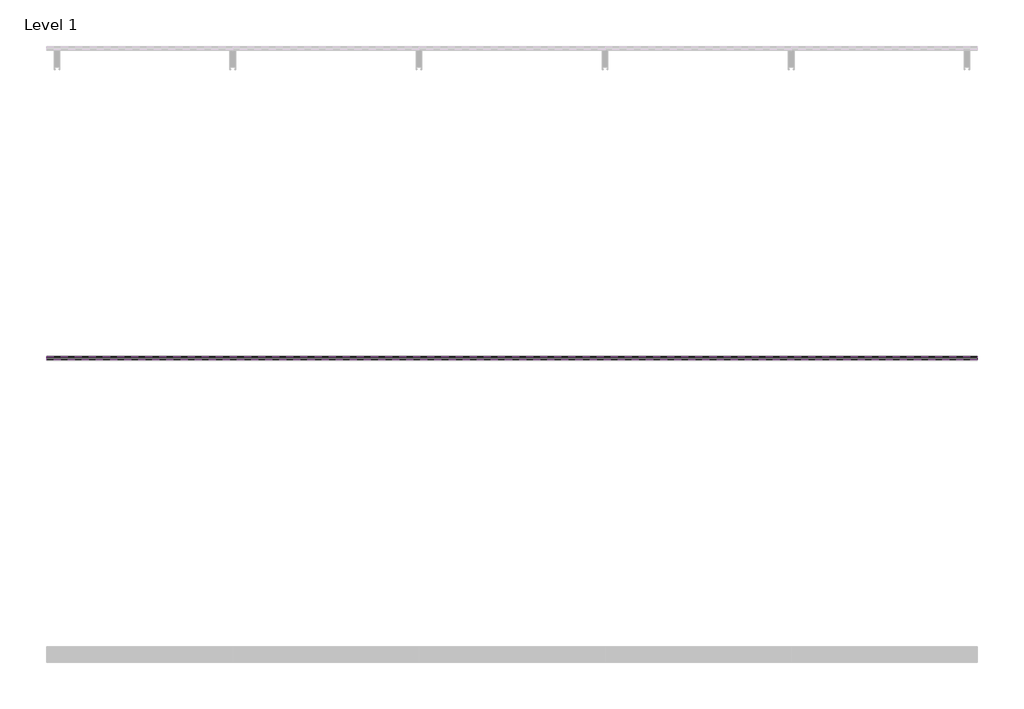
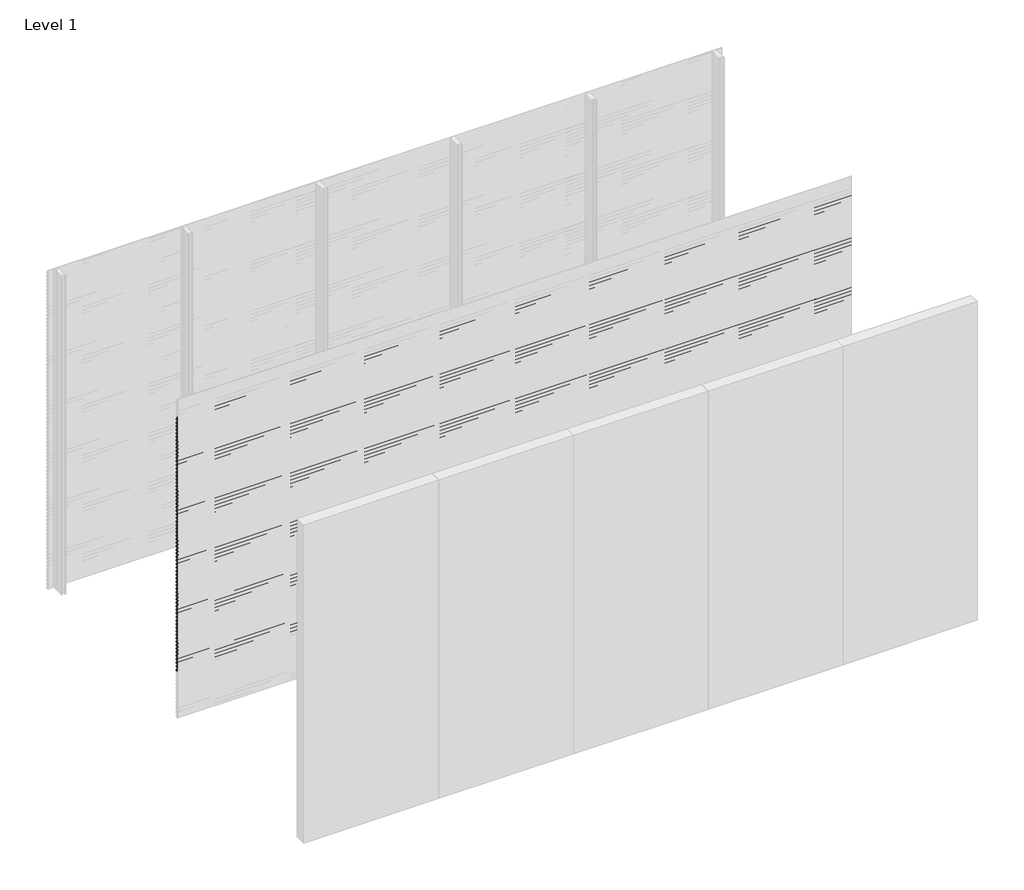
# One storey, part 11 of 77: 72 proxies.
"""IFC4 building model written with IfcOpenShell, lengths in millimetres."""

from ifc_helpers import new_model, si_unit, frame, origin, place, context, project, spatial, polyline, outline, extrude, element, save

model = new_model("IFC4")

# Units and contexts
model_context = context("Model", 3, world=origin())
ifc_project = project(units=[si_unit("LENGTHUNIT", "METRE", prefix="MILLI")], contexts=[model_context])

# Site, building, storey
site = spatial("IfcSite", under=ifc_project)
building = spatial("IfcBuilding", under=site)
storey = spatial("IfcBuildingStorey", under=building, Name="Level 1", Elevation=0.0)

# Proxies
placement = place(None, origin())
element("IfcBuildingElementProxy", 1, Name="Wall Sweeps", at=placement, inside=storey, context=model_context, shape_type="SweptSolid", body=[
    extrude(outline(polyline([(-49978.6, 2806.0359887), (-49998.0, 2817.2366691), (-49998.0, 2830.5), (-49997.0, 2830.5), (-49997.0, 2817.8191057), (-49977.6, 2806.6185105), (-49977.6, 2793.0185105), (-49978.6, 2794.5953129), (-49978.6, 2800.4032062), (-49995.9773817, 2792.3), (-49996.4, 2793.2063078), (-49978.6, 2801.5065841), (-49978.6, 2806.0359887)])), frame((0.0, 0.0, 0.0), z_axis=(1.0, 0.0, 0.0), x_axis=(0.0, 1.0, 0.0)), (0.0, 0.0, 1.0), 6000.0),
])
element("IfcBuildingElementProxy", 2, Name="Wall Sweeps", at=placement, inside=storey, context=model_context, shape_type="SweptSolid", body=[
    extrude(outline(polyline([(-49978.6, 2772.7359887), (-49998.0, 2783.9366691), (-49998.0, 2797.2), (-49997.0, 2797.2), (-49997.0, 2784.5191057), (-49977.6, 2773.3185105), (-49977.6, 2759.7185105), (-49978.6, 2761.2953129), (-49978.6, 2767.1032062), (-49995.9773817, 2759.0), (-49996.4, 2759.9063078), (-49978.6, 2768.2065841), (-49978.6, 2772.7359887)])), frame((0.0, 0.0, 0.0), z_axis=(1.0, 0.0, 0.0), x_axis=(0.0, 1.0, 0.0)), (0.0, 0.0, 1.0), 6000.0),
])
element("IfcBuildingElementProxy", 3, Name="Wall Sweeps", at=placement, inside=storey, context=model_context, shape_type="SweptSolid", body=[
    extrude(outline(polyline([(-49978.6, 2739.4359887), (-49998.0, 2750.6366691), (-49998.0, 2763.9), (-49997.0, 2763.9), (-49997.0, 2751.2191057), (-49977.6, 2740.0185105), (-49977.6, 2726.4185105), (-49978.6, 2727.9953129), (-49978.6, 2733.8032062), (-49995.9773817, 2725.7), (-49996.4, 2726.6063078), (-49978.6, 2734.9065841), (-49978.6, 2739.4359887)])), frame((0.0, 0.0, 0.0), z_axis=(1.0, 0.0, 0.0), x_axis=(0.0, 1.0, 0.0)), (0.0, 0.0, 1.0), 6000.0),
])
element("IfcBuildingElementProxy", 4, Name="Wall Sweeps", at=placement, inside=storey, context=model_context, shape_type="SweptSolid", body=[
    extrude(outline(polyline([(-49978.6, 2706.1359887), (-49998.0, 2717.3366691), (-49998.0, 2730.6), (-49997.0, 2730.6), (-49997.0, 2717.9191057), (-49977.6, 2706.7185105), (-49977.6, 2693.1185105), (-49978.6, 2694.6953129), (-49978.6, 2700.5032062), (-49995.9773817, 2692.4), (-49996.4, 2693.3063078), (-49978.6, 2701.6065841), (-49978.6, 2706.1359887)])), frame((0.0, 0.0, 0.0), z_axis=(1.0, 0.0, 0.0), x_axis=(0.0, 1.0, 0.0)), (0.0, 0.0, 1.0), 6000.0),
])
element("IfcBuildingElementProxy", 5, Name="Wall Sweeps", at=placement, inside=storey, context=model_context, shape_type="SweptSolid", body=[
    extrude(outline(polyline([(-49978.6, 2672.8359887), (-49998.0, 2684.0366691), (-49998.0, 2697.3), (-49997.0, 2697.3), (-49997.0, 2684.6191057), (-49977.6, 2673.4185105), (-49977.6, 2659.8185105), (-49978.6, 2661.3953129), (-49978.6, 2667.2032062), (-49995.9773817, 2659.1), (-49996.4, 2660.0063078), (-49978.6, 2668.3065841), (-49978.6, 2672.8359887)])), frame((0.0, 0.0, 0.0), z_axis=(1.0, 0.0, 0.0), x_axis=(0.0, 1.0, 0.0)), (0.0, 0.0, 1.0), 6000.0),
])
element("IfcBuildingElementProxy", 6, Name="Wall Sweeps", at=placement, inside=storey, context=model_context, shape_type="SweptSolid", body=[
    extrude(outline(polyline([(-49978.6, 2639.5359887), (-49998.0, 2650.7366691), (-49998.0, 2664.0), (-49997.0, 2664.0), (-49997.0, 2651.3191057), (-49977.6, 2640.1185105), (-49977.6, 2626.5185105), (-49978.6, 2628.0953129), (-49978.6, 2633.9032062), (-49995.9773817, 2625.8), (-49996.4, 2626.7063078), (-49978.6, 2635.0065841), (-49978.6, 2639.5359887)])), frame((0.0, 0.0, 0.0), z_axis=(1.0, 0.0, 0.0), x_axis=(0.0, 1.0, 0.0)), (0.0, 0.0, 1.0), 6000.0),
])
element("IfcBuildingElementProxy", 7, Name="Wall Sweeps", at=placement, inside=storey, context=model_context, shape_type="SweptSolid", body=[
    extrude(outline(polyline([(-49978.6, 2606.2359887), (-49998.0, 2617.4366691), (-49998.0, 2630.7), (-49997.0, 2630.7), (-49997.0, 2618.0191057), (-49977.6, 2606.8185105), (-49977.6, 2593.2185105), (-49978.6, 2594.7953129), (-49978.6, 2600.6032062), (-49995.9773817, 2592.5), (-49996.4, 2593.4063078), (-49978.6, 2601.7065841), (-49978.6, 2606.2359887)])), frame((0.0, 0.0, 0.0), z_axis=(1.0, 0.0, 0.0), x_axis=(0.0, 1.0, 0.0)), (0.0, 0.0, 1.0), 6000.0),
])
element("IfcBuildingElementProxy", 8, Name="Wall Sweeps", at=placement, inside=storey, context=model_context, shape_type="SweptSolid", body=[
    extrude(outline(polyline([(-49978.6, 2572.9359887), (-49998.0, 2584.1366691), (-49998.0, 2597.4), (-49997.0, 2597.4), (-49997.0, 2584.7191057), (-49977.6, 2573.5185105), (-49977.6, 2559.9185105), (-49978.6, 2561.4953129), (-49978.6, 2567.3032062), (-49995.9773817, 2559.2), (-49996.4, 2560.1063078), (-49978.6, 2568.4065841), (-49978.6, 2572.9359887)])), frame((0.0, 0.0, 0.0), z_axis=(1.0, 0.0, 0.0), x_axis=(0.0, 1.0, 0.0)), (0.0, 0.0, 1.0), 6000.0),
])
element("IfcBuildingElementProxy", 9, Name="Wall Sweeps", at=placement, inside=storey, context=model_context, shape_type="SweptSolid", body=[
    extrude(outline(polyline([(-49978.6, 2539.6359887), (-49998.0, 2550.8366691), (-49998.0, 2564.1), (-49997.0, 2564.1), (-49997.0, 2551.4191057), (-49977.6, 2540.2185105), (-49977.6, 2526.6185105), (-49978.6, 2528.1953129), (-49978.6, 2534.0032062), (-49995.9773817, 2525.9), (-49996.4, 2526.8063078), (-49978.6, 2535.1065841), (-49978.6, 2539.6359887)])), frame((0.0, 0.0, 0.0), z_axis=(1.0, 0.0, 0.0), x_axis=(0.0, 1.0, 0.0)), (0.0, 0.0, 1.0), 6000.0),
])
element("IfcBuildingElementProxy", 10, Name="Wall Sweeps", at=placement, inside=storey, context=model_context, shape_type="SweptSolid", body=[
    extrude(outline(polyline([(-49978.6, 2506.3359887), (-49998.0, 2517.5366691), (-49998.0, 2530.8), (-49997.0, 2530.8), (-49997.0, 2518.1191057), (-49977.6, 2506.9185105), (-49977.6, 2493.3185105), (-49978.6, 2494.8953129), (-49978.6, 2500.7032062), (-49995.9773817, 2492.6), (-49996.4, 2493.5063078), (-49978.6, 2501.8065841), (-49978.6, 2506.3359887)])), frame((0.0, 0.0, 0.0), z_axis=(1.0, 0.0, 0.0), x_axis=(0.0, 1.0, 0.0)), (0.0, 0.0, 1.0), 6000.0),
])
element("IfcBuildingElementProxy", 11, Name="Wall Sweeps", at=placement, inside=storey, context=model_context, shape_type="SweptSolid", body=[
    extrude(outline(polyline([(-49978.6, 2473.0359887), (-49998.0, 2484.2366691), (-49998.0, 2497.5), (-49997.0, 2497.5), (-49997.0, 2484.8191057), (-49977.6, 2473.6185105), (-49977.6, 2460.0185105), (-49978.6, 2461.5953129), (-49978.6, 2467.4032062), (-49995.9773817, 2459.3), (-49996.4, 2460.2063078), (-49978.6, 2468.5065841), (-49978.6, 2473.0359887)])), frame((0.0, 0.0, 0.0), z_axis=(1.0, 0.0, 0.0), x_axis=(0.0, 1.0, 0.0)), (0.0, 0.0, 1.0), 6000.0),
])
element("IfcBuildingElementProxy", 12, Name="Wall Sweeps", at=placement, inside=storey, context=model_context, shape_type="SweptSolid", body=[
    extrude(outline(polyline([(-49978.6, 2439.7359887), (-49998.0, 2450.9366691), (-49998.0, 2464.2), (-49997.0, 2464.2), (-49997.0, 2451.5191057), (-49977.6, 2440.3185105), (-49977.6, 2426.7185105), (-49978.6, 2428.2953129), (-49978.6, 2434.1032062), (-49995.9773817, 2426.0), (-49996.4, 2426.9063078), (-49978.6, 2435.2065841), (-49978.6, 2439.7359887)])), frame((0.0, 0.0, 0.0), z_axis=(1.0, 0.0, 0.0), x_axis=(0.0, 1.0, 0.0)), (0.0, 0.0, 1.0), 6000.0),
])
element("IfcBuildingElementProxy", 13, Name="Wall Sweeps", at=placement, inside=storey, context=model_context, shape_type="SweptSolid", body=[
    extrude(outline(polyline([(-49978.6, 2406.4359887), (-49998.0, 2417.6366691), (-49998.0, 2430.9), (-49997.0, 2430.9), (-49997.0, 2418.2191057), (-49977.6, 2407.0185105), (-49977.6, 2393.4185105), (-49978.6, 2394.9953129), (-49978.6, 2400.8032062), (-49995.9773817, 2392.7), (-49996.4, 2393.6063078), (-49978.6, 2401.9065841), (-49978.6, 2406.4359887)])), frame((0.0, 0.0, 0.0), z_axis=(1.0, 0.0, 0.0), x_axis=(0.0, 1.0, 0.0)), (0.0, 0.0, 1.0), 6000.0),
])
element("IfcBuildingElementProxy", 14, Name="Wall Sweeps", at=placement, inside=storey, context=model_context, shape_type="SweptSolid", body=[
    extrude(outline(polyline([(-49978.6, 2373.1359887), (-49998.0, 2384.3366691), (-49998.0, 2397.6), (-49997.0, 2397.6), (-49997.0, 2384.9191057), (-49977.6, 2373.7185105), (-49977.6, 2360.1185105), (-49978.6, 2361.6953129), (-49978.6, 2367.5032062), (-49995.9773817, 2359.4), (-49996.4, 2360.3063078), (-49978.6, 2368.6065841), (-49978.6, 2373.1359887)])), frame((0.0, 0.0, 0.0), z_axis=(1.0, 0.0, 0.0), x_axis=(0.0, 1.0, 0.0)), (0.0, 0.0, 1.0), 6000.0),
])
element("IfcBuildingElementProxy", 15, Name="Wall Sweeps", at=placement, inside=storey, context=model_context, shape_type="SweptSolid", body=[
    extrude(outline(polyline([(-49978.6, 2339.8359887), (-49998.0, 2351.0366691), (-49998.0, 2364.3), (-49997.0, 2364.3), (-49997.0, 2351.6191057), (-49977.6, 2340.4185105), (-49977.6, 2326.8185105), (-49978.6, 2328.3953129), (-49978.6, 2334.2032062), (-49995.9773817, 2326.1), (-49996.4, 2327.0063078), (-49978.6, 2335.3065841), (-49978.6, 2339.8359887)])), frame((0.0, 0.0, 0.0), z_axis=(1.0, 0.0, 0.0), x_axis=(0.0, 1.0, 0.0)), (0.0, 0.0, 1.0), 6000.0),
])
element("IfcBuildingElementProxy", 16, Name="Wall Sweeps", at=placement, inside=storey, context=model_context, shape_type="SweptSolid", body=[
    extrude(outline(polyline([(-49978.6, 2306.5359887), (-49998.0, 2317.7366691), (-49998.0, 2331.0), (-49997.0, 2331.0), (-49997.0, 2318.3191057), (-49977.6, 2307.1185105), (-49977.6, 2293.5185105), (-49978.6, 2295.0953129), (-49978.6, 2300.9032062), (-49995.9773817, 2292.8), (-49996.4, 2293.7063078), (-49978.6, 2302.0065841), (-49978.6, 2306.5359887)])), frame((0.0, 0.0, 0.0), z_axis=(1.0, 0.0, 0.0), x_axis=(0.0, 1.0, 0.0)), (0.0, 0.0, 1.0), 6000.0),
])
element("IfcBuildingElementProxy", 17, Name="Wall Sweeps", at=placement, inside=storey, context=model_context, shape_type="SweptSolid", body=[
    extrude(outline(polyline([(-49978.6, 2273.2359887), (-49998.0, 2284.4366691), (-49998.0, 2297.7), (-49997.0, 2297.7), (-49997.0, 2285.0191057), (-49977.6, 2273.8185105), (-49977.6, 2260.2185105), (-49978.6, 2261.7953129), (-49978.6, 2267.6032062), (-49995.9773817, 2259.5), (-49996.4, 2260.4063078), (-49978.6, 2268.7065841), (-49978.6, 2273.2359887)])), frame((0.0, 0.0, 0.0), z_axis=(1.0, 0.0, 0.0), x_axis=(0.0, 1.0, 0.0)), (0.0, 0.0, 1.0), 6000.0),
])
element("IfcBuildingElementProxy", 18, Name="Wall Sweeps", at=placement, inside=storey, context=model_context, shape_type="SweptSolid", body=[
    extrude(outline(polyline([(-49978.6, 2239.9359887), (-49998.0, 2251.1366691), (-49998.0, 2264.4), (-49997.0, 2264.4), (-49997.0, 2251.7191057), (-49977.6, 2240.5185105), (-49977.6, 2226.9185105), (-49978.6, 2228.4953129), (-49978.6, 2234.3032062), (-49995.9773817, 2226.2), (-49996.4, 2227.1063078), (-49978.6, 2235.4065841), (-49978.6, 2239.9359887)])), frame((0.0, 0.0, 0.0), z_axis=(1.0, 0.0, 0.0), x_axis=(0.0, 1.0, 0.0)), (0.0, 0.0, 1.0), 6000.0),
])
element("IfcBuildingElementProxy", 19, Name="Wall Sweeps", at=placement, inside=storey, context=model_context, shape_type="SweptSolid", body=[
    extrude(outline(polyline([(-49978.6, 2206.6359887), (-49998.0, 2217.8366691), (-49998.0, 2231.1), (-49997.0, 2231.1), (-49997.0, 2218.4191057), (-49977.6, 2207.2185105), (-49977.6, 2193.6185105), (-49978.6, 2195.1953129), (-49978.6, 2201.0032062), (-49995.9773817, 2192.9), (-49996.4, 2193.8063078), (-49978.6, 2202.1065841), (-49978.6, 2206.6359887)])), frame((0.0, 0.0, 0.0), z_axis=(1.0, 0.0, 0.0), x_axis=(0.0, 1.0, 0.0)), (0.0, 0.0, 1.0), 6000.0),
])
element("IfcBuildingElementProxy", 20, Name="Wall Sweeps", at=placement, inside=storey, context=model_context, shape_type="SweptSolid", body=[
    extrude(outline(polyline([(-49978.6, 2173.3359887), (-49998.0, 2184.5366691), (-49998.0, 2197.8), (-49997.0, 2197.8), (-49997.0, 2185.1191057), (-49977.6, 2173.9185105), (-49977.6, 2160.3185105), (-49978.6, 2161.8953129), (-49978.6, 2167.7032062), (-49995.9773817, 2159.6), (-49996.4, 2160.5063078), (-49978.6, 2168.8065841), (-49978.6, 2173.3359887)])), frame((0.0, 0.0, 0.0), z_axis=(1.0, 0.0, 0.0), x_axis=(0.0, 1.0, 0.0)), (0.0, 0.0, 1.0), 6000.0),
])
element("IfcBuildingElementProxy", 21, Name="Wall Sweeps", at=placement, inside=storey, context=model_context, shape_type="SweptSolid", body=[
    extrude(outline(polyline([(-49978.6, 2140.0359887), (-49998.0, 2151.2366691), (-49998.0, 2164.5), (-49997.0, 2164.5), (-49997.0, 2151.8191057), (-49977.6, 2140.6185105), (-49977.6, 2127.0185105), (-49978.6, 2128.5953129), (-49978.6, 2134.4032062), (-49995.9773817, 2126.3), (-49996.4, 2127.2063078), (-49978.6, 2135.5065841), (-49978.6, 2140.0359887)])), frame((0.0, 0.0, 0.0), z_axis=(1.0, 0.0, 0.0), x_axis=(0.0, 1.0, 0.0)), (0.0, 0.0, 1.0), 6000.0),
])
element("IfcBuildingElementProxy", 22, Name="Wall Sweeps", at=placement, inside=storey, context=model_context, shape_type="SweptSolid", body=[
    extrude(outline(polyline([(-49978.6, 2106.7359887), (-49998.0, 2117.9366691), (-49998.0, 2131.2), (-49997.0, 2131.2), (-49997.0, 2118.5191057), (-49977.6, 2107.3185105), (-49977.6, 2093.7185105), (-49978.6, 2095.2953129), (-49978.6, 2101.1032062), (-49995.9773817, 2093.0), (-49996.4, 2093.9063078), (-49978.6, 2102.2065841), (-49978.6, 2106.7359887)])), frame((0.0, 0.0, 0.0), z_axis=(1.0, 0.0, 0.0), x_axis=(0.0, 1.0, 0.0)), (0.0, 0.0, 1.0), 6000.0),
])
element("IfcBuildingElementProxy", 23, Name="Wall Sweeps", at=placement, inside=storey, context=model_context, shape_type="SweptSolid", body=[
    extrude(outline(polyline([(-49978.6, 2073.4359887), (-49998.0, 2084.6366691), (-49998.0, 2097.9), (-49997.0, 2097.9), (-49997.0, 2085.2191057), (-49977.6, 2074.0185105), (-49977.6, 2060.4185105), (-49978.6, 2061.9953129), (-49978.6, 2067.8032062), (-49995.9773817, 2059.7), (-49996.4, 2060.6063078), (-49978.6, 2068.9065841), (-49978.6, 2073.4359887)])), frame((0.0, 0.0, 0.0), z_axis=(1.0, 0.0, 0.0), x_axis=(0.0, 1.0, 0.0)), (0.0, 0.0, 1.0), 6000.0),
])
element("IfcBuildingElementProxy", 24, Name="Wall Sweeps", at=placement, inside=storey, context=model_context, shape_type="SweptSolid", body=[
    extrude(outline(polyline([(-49978.6, 2040.1359887), (-49998.0, 2051.3366691), (-49998.0, 2064.6), (-49997.0, 2064.6), (-49997.0, 2051.9191057), (-49977.6, 2040.7185105), (-49977.6, 2027.1185105), (-49978.6, 2028.6953129), (-49978.6, 2034.5032062), (-49995.9773817, 2026.4), (-49996.4, 2027.3063078), (-49978.6, 2035.6065841), (-49978.6, 2040.1359887)])), frame((0.0, 0.0, 0.0), z_axis=(1.0, 0.0, 0.0), x_axis=(0.0, 1.0, 0.0)), (0.0, 0.0, 1.0), 6000.0),
])
element("IfcBuildingElementProxy", 25, Name="Wall Sweeps", at=placement, inside=storey, context=model_context, shape_type="SweptSolid", body=[
    extrude(outline(polyline([(-49978.6, 2006.8359887), (-49998.0, 2018.0366691), (-49998.0, 2031.3), (-49997.0, 2031.3), (-49997.0, 2018.6191057), (-49977.6, 2007.4185105), (-49977.6, 1993.8185105), (-49978.6, 1995.3953129), (-49978.6, 2001.2032062), (-49995.9773817, 1993.1), (-49996.4, 1994.0063078), (-49978.6, 2002.3065841), (-49978.6, 2006.8359887)])), frame((0.0, 0.0, 0.0), z_axis=(1.0, 0.0, 0.0), x_axis=(0.0, 1.0, 0.0)), (0.0, 0.0, 1.0), 6000.0),
])
element("IfcBuildingElementProxy", 26, Name="Wall Sweeps", at=placement, inside=storey, context=model_context, shape_type="SweptSolid", body=[
    extrude(outline(polyline([(-49978.6, 1973.5359887), (-49998.0, 1984.7366691), (-49998.0, 1998.0), (-49997.0, 1998.0), (-49997.0, 1985.3191057), (-49977.6, 1974.1185105), (-49977.6, 1960.5185105), (-49978.6, 1962.0953129), (-49978.6, 1967.9032062), (-49995.9773817, 1959.8), (-49996.4, 1960.7063078), (-49978.6, 1969.0065841), (-49978.6, 1973.5359887)])), frame((0.0, 0.0, 0.0), z_axis=(1.0, 0.0, 0.0), x_axis=(0.0, 1.0, 0.0)), (0.0, 0.0, 1.0), 6000.0),
])
element("IfcBuildingElementProxy", 27, Name="Wall Sweeps", at=placement, inside=storey, context=model_context, shape_type="SweptSolid", body=[
    extrude(outline(polyline([(-49978.6, 1940.2359887), (-49998.0, 1951.4366691), (-49998.0, 1964.7), (-49997.0, 1964.7), (-49997.0, 1952.0191057), (-49977.6, 1940.8185105), (-49977.6, 1927.2185105), (-49978.6, 1928.7953129), (-49978.6, 1934.6032062), (-49995.9773817, 1926.5), (-49996.4, 1927.4063078), (-49978.6, 1935.7065841), (-49978.6, 1940.2359887)])), frame((0.0, 0.0, 0.0), z_axis=(1.0, 0.0, 0.0), x_axis=(0.0, 1.0, 0.0)), (0.0, 0.0, 1.0), 6000.0),
])
element("IfcBuildingElementProxy", 28, Name="Wall Sweeps", at=placement, inside=storey, context=model_context, shape_type="SweptSolid", body=[
    extrude(outline(polyline([(-49978.6, 1906.9359887), (-49998.0, 1918.1366691), (-49998.0, 1931.4), (-49997.0, 1931.4), (-49997.0, 1918.7191057), (-49977.6, 1907.5185105), (-49977.6, 1893.9185105), (-49978.6, 1895.4953129), (-49978.6, 1901.3032062), (-49995.9773817, 1893.2), (-49996.4, 1894.1063078), (-49978.6, 1902.4065841), (-49978.6, 1906.9359887)])), frame((0.0, 0.0, 0.0), z_axis=(1.0, 0.0, 0.0), x_axis=(0.0, 1.0, 0.0)), (0.0, 0.0, 1.0), 6000.0),
])
element("IfcBuildingElementProxy", 29, Name="Wall Sweeps", at=placement, inside=storey, context=model_context, shape_type="SweptSolid", body=[
    extrude(outline(polyline([(-49978.6, 1873.6359887), (-49998.0, 1884.8366691), (-49998.0, 1898.1), (-49997.0, 1898.1), (-49997.0, 1885.4191057), (-49977.6, 1874.2185105), (-49977.6, 1860.6185105), (-49978.6, 1862.1953129), (-49978.6, 1868.0032062), (-49995.9773817, 1859.9), (-49996.4, 1860.8063078), (-49978.6, 1869.1065841), (-49978.6, 1873.6359887)])), frame((0.0, 0.0, 0.0), z_axis=(1.0, 0.0, 0.0), x_axis=(0.0, 1.0, 0.0)), (0.0, 0.0, 1.0), 6000.0),
])
element("IfcBuildingElementProxy", 30, Name="Wall Sweeps", at=placement, inside=storey, context=model_context, shape_type="SweptSolid", body=[
    extrude(outline(polyline([(-49978.6, 1840.3359887), (-49998.0, 1851.5366691), (-49998.0, 1864.8), (-49997.0, 1864.8), (-49997.0, 1852.1191057), (-49977.6, 1840.9185105), (-49977.6, 1827.3185105), (-49978.6, 1828.8953129), (-49978.6, 1834.7032062), (-49995.9773817, 1826.6), (-49996.4, 1827.5063078), (-49978.6, 1835.8065841), (-49978.6, 1840.3359887)])), frame((0.0, 0.0, 0.0), z_axis=(1.0, 0.0, 0.0), x_axis=(0.0, 1.0, 0.0)), (0.0, 0.0, 1.0), 6000.0),
])
element("IfcBuildingElementProxy", 31, Name="Wall Sweeps", at=placement, inside=storey, context=model_context, shape_type="SweptSolid", body=[
    extrude(outline(polyline([(-49978.6, 1807.0359887), (-49998.0, 1818.2366691), (-49998.0, 1831.5), (-49997.0, 1831.5), (-49997.0, 1818.8191057), (-49977.6, 1807.6185105), (-49977.6, 1794.0185105), (-49978.6, 1795.5953129), (-49978.6, 1801.4032062), (-49995.9773817, 1793.3), (-49996.4, 1794.2063078), (-49978.6, 1802.5065841), (-49978.6, 1807.0359887)])), frame((0.0, 0.0, 0.0), z_axis=(1.0, 0.0, 0.0), x_axis=(0.0, 1.0, 0.0)), (0.0, 0.0, 1.0), 6000.0),
])
element("IfcBuildingElementProxy", 32, Name="Wall Sweeps", at=placement, inside=storey, context=model_context, shape_type="SweptSolid", body=[
    extrude(outline(polyline([(-49978.6, 1773.7359887), (-49998.0, 1784.9366691), (-49998.0, 1798.2), (-49997.0, 1798.2), (-49997.0, 1785.5191057), (-49977.6, 1774.3185105), (-49977.6, 1760.7185105), (-49978.6, 1762.2953129), (-49978.6, 1768.1032062), (-49995.9773817, 1760.0), (-49996.4, 1760.9063078), (-49978.6, 1769.2065841), (-49978.6, 1773.7359887)])), frame((0.0, 0.0, 0.0), z_axis=(1.0, 0.0, 0.0), x_axis=(0.0, 1.0, 0.0)), (0.0, 0.0, 1.0), 6000.0),
])
element("IfcBuildingElementProxy", 33, Name="Wall Sweeps", at=placement, inside=storey, context=model_context, shape_type="SweptSolid", body=[
    extrude(outline(polyline([(-49978.6, 1740.4359887), (-49998.0, 1751.6366691), (-49998.0, 1764.9), (-49997.0, 1764.9), (-49997.0, 1752.2191057), (-49977.6, 1741.0185105), (-49977.6, 1727.4185105), (-49978.6, 1728.9953129), (-49978.6, 1734.8032062), (-49995.9773817, 1726.7), (-49996.4, 1727.6063078), (-49978.6, 1735.9065841), (-49978.6, 1740.4359887)])), frame((0.0, 0.0, 0.0), z_axis=(1.0, 0.0, 0.0), x_axis=(0.0, 1.0, 0.0)), (0.0, 0.0, 1.0), 6000.0),
])
element("IfcBuildingElementProxy", 34, Name="Wall Sweeps", at=placement, inside=storey, context=model_context, shape_type="SweptSolid", body=[
    extrude(outline(polyline([(-49978.6, 1707.1359887), (-49998.0, 1718.3366691), (-49998.0, 1731.6), (-49997.0, 1731.6), (-49997.0, 1718.9191057), (-49977.6, 1707.7185105), (-49977.6, 1694.1185105), (-49978.6, 1695.6953129), (-49978.6, 1701.5032062), (-49995.9773817, 1693.4), (-49996.4, 1694.3063078), (-49978.6, 1702.6065841), (-49978.6, 1707.1359887)])), frame((0.0, 0.0, 0.0), z_axis=(1.0, 0.0, 0.0), x_axis=(0.0, 1.0, 0.0)), (0.0, 0.0, 1.0), 6000.0),
])
element("IfcBuildingElementProxy", 35, Name="Wall Sweeps", at=placement, inside=storey, context=model_context, shape_type="SweptSolid", body=[
    extrude(outline(polyline([(-49978.6, 1673.8359887), (-49998.0, 1685.0366691), (-49998.0, 1698.3), (-49997.0, 1698.3), (-49997.0, 1685.6191057), (-49977.6, 1674.4185105), (-49977.6, 1660.8185105), (-49978.6, 1662.3953129), (-49978.6, 1668.2032062), (-49995.9773817, 1660.1), (-49996.4, 1661.0063078), (-49978.6, 1669.3065841), (-49978.6, 1673.8359887)])), frame((0.0, 0.0, 0.0), z_axis=(1.0, 0.0, 0.0), x_axis=(0.0, 1.0, 0.0)), (0.0, 0.0, 1.0), 6000.0),
])
element("IfcBuildingElementProxy", 36, Name="Wall Sweeps", at=placement, inside=storey, context=model_context, shape_type="SweptSolid", body=[
    extrude(outline(polyline([(-49978.6, 1640.5359887), (-49998.0, 1651.7366691), (-49998.0, 1665.0), (-49997.0, 1665.0), (-49997.0, 1652.3191057), (-49977.6, 1641.1185105), (-49977.6, 1627.5185105), (-49978.6, 1629.0953129), (-49978.6, 1634.9032062), (-49995.9773817, 1626.8), (-49996.4, 1627.7063078), (-49978.6, 1636.0065841), (-49978.6, 1640.5359887)])), frame((0.0, 0.0, 0.0), z_axis=(1.0, 0.0, 0.0), x_axis=(0.0, 1.0, 0.0)), (0.0, 0.0, 1.0), 6000.0),
])
element("IfcBuildingElementProxy", 37, Name="Wall Sweeps", at=placement, inside=storey, context=model_context, shape_type="SweptSolid", body=[
    extrude(outline(polyline([(-49978.6, 1607.2359887), (-49998.0, 1618.4366691), (-49998.0, 1631.7), (-49997.0, 1631.7), (-49997.0, 1619.0191057), (-49977.6, 1607.8185105), (-49977.6, 1594.2185105), (-49978.6, 1595.7953129), (-49978.6, 1601.6032062), (-49995.9773817, 1593.5), (-49996.4, 1594.4063078), (-49978.6, 1602.7065841), (-49978.6, 1607.2359887)])), frame((0.0, 0.0, 0.0), z_axis=(1.0, 0.0, 0.0), x_axis=(0.0, 1.0, 0.0)), (0.0, 0.0, 1.0), 6000.0),
])
element("IfcBuildingElementProxy", 38, Name="Wall Sweeps", at=placement, inside=storey, context=model_context, shape_type="SweptSolid", body=[
    extrude(outline(polyline([(-49978.6, 1573.9359887), (-49998.0, 1585.1366691), (-49998.0, 1598.4), (-49997.0, 1598.4), (-49997.0, 1585.7191057), (-49977.6, 1574.5185105), (-49977.6, 1560.9185105), (-49978.6, 1562.4953129), (-49978.6, 1568.3032062), (-49995.9773817, 1560.2), (-49996.4, 1561.1063078), (-49978.6, 1569.4065841), (-49978.6, 1573.9359887)])), frame((0.0, 0.0, 0.0), z_axis=(1.0, 0.0, 0.0), x_axis=(0.0, 1.0, 0.0)), (0.0, 0.0, 1.0), 6000.0),
])
element("IfcBuildingElementProxy", 39, Name="Wall Sweeps", at=placement, inside=storey, context=model_context, shape_type="SweptSolid", body=[
    extrude(outline(polyline([(-49978.6, 1540.6359887), (-49998.0, 1551.8366691), (-49998.0, 1565.1), (-49997.0, 1565.1), (-49997.0, 1552.4191057), (-49977.6, 1541.2185105), (-49977.6, 1527.6185105), (-49978.6, 1529.1953129), (-49978.6, 1535.0032062), (-49995.9773817, 1526.9), (-49996.4, 1527.8063078), (-49978.6, 1536.1065841), (-49978.6, 1540.6359887)])), frame((0.0, 0.0, 0.0), z_axis=(1.0, 0.0, 0.0), x_axis=(0.0, 1.0, 0.0)), (0.0, 0.0, 1.0), 6000.0),
])
element("IfcBuildingElementProxy", 40, Name="Wall Sweeps", at=placement, inside=storey, context=model_context, shape_type="SweptSolid", body=[
    extrude(outline(polyline([(-49978.6, 1507.3359887), (-49998.0, 1518.5366691), (-49998.0, 1531.8), (-49997.0, 1531.8), (-49997.0, 1519.1191057), (-49977.6, 1507.9185105), (-49977.6, 1494.3185105), (-49978.6, 1495.8953129), (-49978.6, 1501.7032062), (-49995.9773817, 1493.6), (-49996.4, 1494.5063078), (-49978.6, 1502.8065841), (-49978.6, 1507.3359887)])), frame((0.0, 0.0, 0.0), z_axis=(1.0, 0.0, 0.0), x_axis=(0.0, 1.0, 0.0)), (0.0, 0.0, 1.0), 6000.0),
])
element("IfcBuildingElementProxy", 41, Name="Wall Sweeps", at=placement, inside=storey, context=model_context, shape_type="SweptSolid", body=[
    extrude(outline(polyline([(-49978.6, 1474.0359887), (-49998.0, 1485.2366691), (-49998.0, 1498.5), (-49997.0, 1498.5), (-49997.0, 1485.8191057), (-49977.6, 1474.6185105), (-49977.6, 1461.0185105), (-49978.6, 1462.5953129), (-49978.6, 1468.4032062), (-49995.9773817, 1460.3), (-49996.4, 1461.2063078), (-49978.6, 1469.5065841), (-49978.6, 1474.0359887)])), frame((0.0, 0.0, 0.0), z_axis=(1.0, 0.0, 0.0), x_axis=(0.0, 1.0, 0.0)), (0.0, 0.0, 1.0), 6000.0),
])
element("IfcBuildingElementProxy", 42, Name="Wall Sweeps", at=placement, inside=storey, context=model_context, shape_type="SweptSolid", body=[
    extrude(outline(polyline([(-49978.6, 1440.7359887), (-49998.0, 1451.9366691), (-49998.0, 1465.2), (-49997.0, 1465.2), (-49997.0, 1452.5191057), (-49977.6, 1441.3185105), (-49977.6, 1427.7185105), (-49978.6, 1429.2953129), (-49978.6, 1435.1032062), (-49995.9773817, 1427.0), (-49996.4, 1427.9063078), (-49978.6, 1436.2065841), (-49978.6, 1440.7359887)])), frame((0.0, 0.0, 0.0), z_axis=(1.0, 0.0, 0.0), x_axis=(0.0, 1.0, 0.0)), (0.0, 0.0, 1.0), 6000.0),
])
element("IfcBuildingElementProxy", 43, Name="Wall Sweeps", at=placement, inside=storey, context=model_context, shape_type="SweptSolid", body=[
    extrude(outline(polyline([(-49978.6, 1407.4359887), (-49998.0, 1418.6366691), (-49998.0, 1431.9), (-49997.0, 1431.9), (-49997.0, 1419.2191057), (-49977.6, 1408.0185105), (-49977.6, 1394.4185105), (-49978.6, 1395.9953129), (-49978.6, 1401.8032062), (-49995.9773817, 1393.7), (-49996.4, 1394.6063078), (-49978.6, 1402.9065841), (-49978.6, 1407.4359887)])), frame((0.0, 0.0, 0.0), z_axis=(1.0, 0.0, 0.0), x_axis=(0.0, 1.0, 0.0)), (0.0, 0.0, 1.0), 6000.0),
])
element("IfcBuildingElementProxy", 44, Name="Wall Sweeps", at=placement, inside=storey, context=model_context, shape_type="SweptSolid", body=[
    extrude(outline(polyline([(-49978.6, 1374.1359887), (-49998.0, 1385.3366691), (-49998.0, 1398.6), (-49997.0, 1398.6), (-49997.0, 1385.9191057), (-49977.6, 1374.7185105), (-49977.6, 1361.1185105), (-49978.6, 1362.6953129), (-49978.6, 1368.5032062), (-49995.9773817, 1360.4), (-49996.4, 1361.3063078), (-49978.6, 1369.6065841), (-49978.6, 1374.1359887)])), frame((0.0, 0.0, 0.0), z_axis=(1.0, 0.0, 0.0), x_axis=(0.0, 1.0, 0.0)), (0.0, 0.0, 1.0), 6000.0),
])
element("IfcBuildingElementProxy", 45, Name="Wall Sweeps", at=placement, inside=storey, context=model_context, shape_type="SweptSolid", body=[
    extrude(outline(polyline([(-49978.6, 1340.8359887), (-49998.0, 1352.0366691), (-49998.0, 1365.3), (-49997.0, 1365.3), (-49997.0, 1352.6191057), (-49977.6, 1341.4185105), (-49977.6, 1327.8185105), (-49978.6, 1329.3953129), (-49978.6, 1335.2032062), (-49995.9773817, 1327.1), (-49996.4, 1328.0063078), (-49978.6, 1336.3065841), (-49978.6, 1340.8359887)])), frame((0.0, 0.0, 0.0), z_axis=(1.0, 0.0, 0.0), x_axis=(0.0, 1.0, 0.0)), (0.0, 0.0, 1.0), 6000.0),
])
element("IfcBuildingElementProxy", 46, Name="Wall Sweeps", at=placement, inside=storey, context=model_context, shape_type="SweptSolid", body=[
    extrude(outline(polyline([(-49978.6, 1307.5359887), (-49998.0, 1318.7366691), (-49998.0, 1332.0), (-49997.0, 1332.0), (-49997.0, 1319.3191057), (-49977.6, 1308.1185105), (-49977.6, 1294.5185105), (-49978.6, 1296.0953129), (-49978.6, 1301.9032062), (-49995.9773817, 1293.8), (-49996.4, 1294.7063078), (-49978.6, 1303.0065841), (-49978.6, 1307.5359887)])), frame((0.0, 0.0, 0.0), z_axis=(1.0, 0.0, 0.0), x_axis=(0.0, 1.0, 0.0)), (0.0, 0.0, 1.0), 6000.0),
])
element("IfcBuildingElementProxy", 47, Name="Wall Sweeps", at=placement, inside=storey, context=model_context, shape_type="SweptSolid", body=[
    extrude(outline(polyline([(-49978.6, 1274.2359887), (-49998.0, 1285.4366691), (-49998.0, 1298.7), (-49997.0, 1298.7), (-49997.0, 1286.0191057), (-49977.6, 1274.8185105), (-49977.6, 1261.2185105), (-49978.6, 1262.7953129), (-49978.6, 1268.6032062), (-49995.9773817, 1260.5), (-49996.4, 1261.4063078), (-49978.6, 1269.7065841), (-49978.6, 1274.2359887)])), frame((0.0, 0.0, 0.0), z_axis=(1.0, 0.0, 0.0), x_axis=(0.0, 1.0, 0.0)), (0.0, 0.0, 1.0), 6000.0),
])
element("IfcBuildingElementProxy", 48, Name="Wall Sweeps", at=placement, inside=storey, context=model_context, shape_type="SweptSolid", body=[
    extrude(outline(polyline([(-49978.6, 1240.9359887), (-49998.0, 1252.1366691), (-49998.0, 1265.4), (-49997.0, 1265.4), (-49997.0, 1252.7191057), (-49977.6, 1241.5185105), (-49977.6, 1227.9185105), (-49978.6, 1229.4953129), (-49978.6, 1235.3032062), (-49995.9773817, 1227.2), (-49996.4, 1228.1063078), (-49978.6, 1236.4065841), (-49978.6, 1240.9359887)])), frame((0.0, 0.0, 0.0), z_axis=(1.0, 0.0, 0.0), x_axis=(0.0, 1.0, 0.0)), (0.0, 0.0, 1.0), 6000.0),
])
element("IfcBuildingElementProxy", 49, Name="Wall Sweeps", at=placement, inside=storey, context=model_context, shape_type="SweptSolid", body=[
    extrude(outline(polyline([(-49978.6, 1207.6359887), (-49998.0, 1218.8366691), (-49998.0, 1232.1), (-49997.0, 1232.1), (-49997.0, 1219.4191057), (-49977.6, 1208.2185105), (-49977.6, 1194.6185105), (-49978.6, 1196.1953129), (-49978.6, 1202.0032062), (-49995.9773817, 1193.9), (-49996.4, 1194.8063078), (-49978.6, 1203.1065841), (-49978.6, 1207.6359887)])), frame((0.0, 0.0, 0.0), z_axis=(1.0, 0.0, 0.0), x_axis=(0.0, 1.0, 0.0)), (0.0, 0.0, 1.0), 6000.0),
])
element("IfcBuildingElementProxy", 50, Name="Wall Sweeps", at=placement, inside=storey, context=model_context, shape_type="SweptSolid", body=[
    extrude(outline(polyline([(-49978.6, 1174.3359887), (-49998.0, 1185.5366691), (-49998.0, 1198.8), (-49997.0, 1198.8), (-49997.0, 1186.1191057), (-49977.6, 1174.9185105), (-49977.6, 1161.3185105), (-49978.6, 1162.8953129), (-49978.6, 1168.7032062), (-49995.9773817, 1160.6), (-49996.4, 1161.5063078), (-49978.6, 1169.8065841), (-49978.6, 1174.3359887)])), frame((0.0, 0.0, 0.0), z_axis=(1.0, 0.0, 0.0), x_axis=(0.0, 1.0, 0.0)), (0.0, 0.0, 1.0), 6000.0),
])
element("IfcBuildingElementProxy", 51, Name="Wall Sweeps", at=placement, inside=storey, context=model_context, shape_type="SweptSolid", body=[
    extrude(outline(polyline([(-49978.6, 1141.0359887), (-49998.0, 1152.2366691), (-49998.0, 1165.5), (-49997.0, 1165.5), (-49997.0, 1152.8191057), (-49977.6, 1141.6185105), (-49977.6, 1128.0185105), (-49978.6, 1129.5953129), (-49978.6, 1135.4032062), (-49995.9773817, 1127.3), (-49996.4, 1128.2063078), (-49978.6, 1136.5065841), (-49978.6, 1141.0359887)])), frame((0.0, 0.0, 0.0), z_axis=(1.0, 0.0, 0.0), x_axis=(0.0, 1.0, 0.0)), (0.0, 0.0, 1.0), 6000.0),
])
element("IfcBuildingElementProxy", 52, Name="Wall Sweeps", at=placement, inside=storey, context=model_context, shape_type="SweptSolid", body=[
    extrude(outline(polyline([(-49978.6, 1107.7359887), (-49998.0, 1118.9366691), (-49998.0, 1132.2), (-49997.0, 1132.2), (-49997.0, 1119.5191057), (-49977.6, 1108.3185105), (-49977.6, 1094.7185105), (-49978.6, 1096.2953129), (-49978.6, 1102.1032062), (-49995.9773817, 1094.0), (-49996.4, 1094.9063078), (-49978.6, 1103.2065841), (-49978.6, 1107.7359887)])), frame((0.0, 0.0, 0.0), z_axis=(1.0, 0.0, 0.0), x_axis=(0.0, 1.0, 0.0)), (0.0, 0.0, 1.0), 6000.0),
])
element("IfcBuildingElementProxy", 53, Name="Wall Sweeps", at=placement, inside=storey, context=model_context, shape_type="SweptSolid", body=[
    extrude(outline(polyline([(-49978.6, 1074.4359887), (-49998.0, 1085.6366691), (-49998.0, 1098.9), (-49997.0, 1098.9), (-49997.0, 1086.2191057), (-49977.6, 1075.0185105), (-49977.6, 1061.4185105), (-49978.6, 1062.9953129), (-49978.6, 1068.8032062), (-49995.9773817, 1060.7), (-49996.4, 1061.6063078), (-49978.6, 1069.9065841), (-49978.6, 1074.4359887)])), frame((0.0, 0.0, 0.0), z_axis=(1.0, 0.0, 0.0), x_axis=(0.0, 1.0, 0.0)), (0.0, 0.0, 1.0), 6000.0),
])
element("IfcBuildingElementProxy", 54, Name="Wall Sweeps", at=placement, inside=storey, context=model_context, shape_type="SweptSolid", body=[
    extrude(outline(polyline([(-49978.6, 1041.1359887), (-49998.0, 1052.3366691), (-49998.0, 1065.6), (-49997.0, 1065.6), (-49997.0, 1052.9191057), (-49977.6, 1041.7185105), (-49977.6, 1028.1185105), (-49978.6, 1029.6953129), (-49978.6, 1035.5032062), (-49995.9773817, 1027.4), (-49996.4, 1028.3063078), (-49978.6, 1036.6065841), (-49978.6, 1041.1359887)])), frame((0.0, 0.0, 0.0), z_axis=(1.0, 0.0, 0.0), x_axis=(0.0, 1.0, 0.0)), (0.0, 0.0, 1.0), 6000.0),
])
element("IfcBuildingElementProxy", 55, Name="Wall Sweeps", at=placement, inside=storey, context=model_context, shape_type="SweptSolid", body=[
    extrude(outline(polyline([(-49978.6, 1007.8359887), (-49998.0, 1019.0366691), (-49998.0, 1032.3), (-49997.0, 1032.3), (-49997.0, 1019.6191057), (-49977.6, 1008.4185105), (-49977.6, 994.8185105), (-49978.6, 996.3953129), (-49978.6, 1002.2032062), (-49995.9773817, 994.1), (-49996.4, 995.0063078), (-49978.6, 1003.3065841), (-49978.6, 1007.8359887)])), frame((0.0, 0.0, 0.0), z_axis=(1.0, 0.0, 0.0), x_axis=(0.0, 1.0, 0.0)), (0.0, 0.0, 1.0), 6000.0),
])
element("IfcBuildingElementProxy", 56, Name="Wall Sweeps", at=placement, inside=storey, context=model_context, shape_type="SweptSolid", body=[
    extrude(outline(polyline([(-49978.6, 974.5359887), (-49998.0, 985.7366691), (-49998.0, 999.0), (-49997.0, 999.0), (-49997.0, 986.3191057), (-49977.6, 975.1185105), (-49977.6, 961.5185105), (-49978.6, 963.0953129), (-49978.6, 968.9032062), (-49995.9773817, 960.8), (-49996.4, 961.7063078), (-49978.6, 970.0065841), (-49978.6, 974.5359887)])), frame((0.0, 0.0, 0.0), z_axis=(1.0, 0.0, 0.0), x_axis=(0.0, 1.0, 0.0)), (0.0, 0.0, 1.0), 6000.0),
])
element("IfcBuildingElementProxy", 57, Name="Wall Sweeps", at=placement, inside=storey, context=model_context, shape_type="SweptSolid", body=[
    extrude(outline(polyline([(-49978.6, 941.2359887), (-49998.0, 952.4366691), (-49998.0, 965.7), (-49997.0, 965.7), (-49997.0, 953.0191057), (-49977.6, 941.8185105), (-49977.6, 928.2185105), (-49978.6, 929.7953129), (-49978.6, 935.6032062), (-49995.9773817, 927.5), (-49996.4, 928.4063078), (-49978.6, 936.7065841), (-49978.6, 941.2359887)])), frame((0.0, 0.0, 0.0), z_axis=(1.0, 0.0, 0.0), x_axis=(0.0, 1.0, 0.0)), (0.0, 0.0, 1.0), 6000.0),
])
element("IfcBuildingElementProxy", 58, Name="Wall Sweeps", at=placement, inside=storey, context=model_context, shape_type="SweptSolid", body=[
    extrude(outline(polyline([(-49978.6, 907.9359887), (-49998.0, 919.1366691), (-49998.0, 932.4), (-49997.0, 932.4), (-49997.0, 919.7191057), (-49977.6, 908.5185105), (-49977.6, 894.9185105), (-49978.6, 896.4953129), (-49978.6, 902.3032062), (-49995.9773817, 894.2), (-49996.4, 895.1063078), (-49978.6, 903.4065841), (-49978.6, 907.9359887)])), frame((0.0, 0.0, 0.0), z_axis=(1.0, 0.0, 0.0), x_axis=(0.0, 1.0, 0.0)), (0.0, 0.0, 1.0), 6000.0),
])
element("IfcBuildingElementProxy", 59, Name="Wall Sweeps", at=placement, inside=storey, context=model_context, shape_type="SweptSolid", body=[
    extrude(outline(polyline([(-49978.6, 874.6359887), (-49998.0, 885.8366691), (-49998.0, 899.1), (-49997.0, 899.1), (-49997.0, 886.4191057), (-49977.6, 875.2185105), (-49977.6, 861.6185105), (-49978.6, 863.1953129), (-49978.6, 869.0032062), (-49995.9773817, 860.9), (-49996.4, 861.8063078), (-49978.6, 870.1065841), (-49978.6, 874.6359887)])), frame((0.0, 0.0, 0.0), z_axis=(1.0, 0.0, 0.0), x_axis=(0.0, 1.0, 0.0)), (0.0, 0.0, 1.0), 6000.0),
])
element("IfcBuildingElementProxy", 60, Name="Wall Sweeps", at=placement, inside=storey, context=model_context, shape_type="SweptSolid", body=[
    extrude(outline(polyline([(-49978.6, 841.3359887), (-49998.0, 852.5366691), (-49998.0, 865.8), (-49997.0, 865.8), (-49997.0, 853.1191057), (-49977.6, 841.9185105), (-49977.6, 828.3185105), (-49978.6, 829.8953129), (-49978.6, 835.7032062), (-49995.9773817, 827.6), (-49996.4, 828.5063078), (-49978.6, 836.8065841), (-49978.6, 841.3359887)])), frame((0.0, 0.0, 0.0), z_axis=(1.0, 0.0, 0.0), x_axis=(0.0, 1.0, 0.0)), (0.0, 0.0, 1.0), 6000.0),
])
element("IfcBuildingElementProxy", 61, Name="Wall Sweeps", at=placement, inside=storey, context=model_context, shape_type="SweptSolid", body=[
    extrude(outline(polyline([(-49978.6, 808.0359887), (-49998.0, 819.2366691), (-49998.0, 832.5), (-49997.0, 832.5), (-49997.0, 819.8191057), (-49977.6, 808.6185105), (-49977.6, 795.0185105), (-49978.6, 796.5953129), (-49978.6, 802.4032062), (-49995.9773817, 794.3), (-49996.4, 795.2063078), (-49978.6, 803.5065841), (-49978.6, 808.0359887)])), frame((0.0, 0.0, 0.0), z_axis=(1.0, 0.0, 0.0), x_axis=(0.0, 1.0, 0.0)), (0.0, 0.0, 1.0), 6000.0),
])
element("IfcBuildingElementProxy", 62, Name="Wall Sweeps", at=placement, inside=storey, context=model_context, shape_type="SweptSolid", body=[
    extrude(outline(polyline([(-49978.6, 774.7359887), (-49998.0, 785.9366691), (-49998.0, 799.2), (-49997.0, 799.2), (-49997.0, 786.5191057), (-49977.6, 775.3185105), (-49977.6, 761.7185105), (-49978.6, 763.2953129), (-49978.6, 769.1032062), (-49995.9773817, 761.0), (-49996.4, 761.9063078), (-49978.6, 770.2065841), (-49978.6, 774.7359887)])), frame((0.0, 0.0, 0.0), z_axis=(1.0, 0.0, 0.0), x_axis=(0.0, 1.0, 0.0)), (0.0, 0.0, 1.0), 6000.0),
])
element("IfcBuildingElementProxy", 63, Name="Wall Sweeps", at=placement, inside=storey, context=model_context, shape_type="SweptSolid", body=[
    extrude(outline(polyline([(-49978.6, 741.4359887), (-49998.0, 752.6366691), (-49998.0, 765.9), (-49997.0, 765.9), (-49997.0, 753.2191057), (-49977.6, 742.0185105), (-49977.6, 728.4185105), (-49978.6, 729.9953129), (-49978.6, 735.8032062), (-49995.9773817, 727.7), (-49996.4, 728.6063078), (-49978.6, 736.9065841), (-49978.6, 741.4359887)])), frame((0.0, 0.0, 0.0), z_axis=(1.0, 0.0, 0.0), x_axis=(0.0, 1.0, 0.0)), (0.0, 0.0, 1.0), 6000.0),
])
element("IfcBuildingElementProxy", 64, Name="Wall Sweeps", at=placement, inside=storey, context=model_context, shape_type="SweptSolid", body=[
    extrude(outline(polyline([(-49978.6, 708.1359887), (-49998.0, 719.3366691), (-49998.0, 732.6), (-49997.0, 732.6), (-49997.0, 719.9191057), (-49977.6, 708.7185105), (-49977.6, 695.1185105), (-49978.6, 696.6953129), (-49978.6, 702.5032062), (-49995.9773817, 694.4), (-49996.4, 695.3063078), (-49978.6, 703.6065841), (-49978.6, 708.1359887)])), frame((0.0, 0.0, 0.0), z_axis=(1.0, 0.0, 0.0), x_axis=(0.0, 1.0, 0.0)), (0.0, 0.0, 1.0), 6000.0),
])
element("IfcBuildingElementProxy", 65, Name="Wall Sweeps", at=placement, inside=storey, context=model_context, shape_type="SweptSolid", body=[
    extrude(outline(polyline([(-49978.6, 674.8359887), (-49998.0, 686.0366691), (-49998.0, 699.3), (-49997.0, 699.3), (-49997.0, 686.6191057), (-49977.6, 675.4185105), (-49977.6, 661.8185105), (-49978.6, 663.3953129), (-49978.6, 669.2032062), (-49995.9773817, 661.1), (-49996.4, 662.0063078), (-49978.6, 670.3065841), (-49978.6, 674.8359887)])), frame((0.0, 0.0, 0.0), z_axis=(1.0, 0.0, 0.0), x_axis=(0.0, 1.0, 0.0)), (0.0, 0.0, 1.0), 6000.0),
])
element("IfcBuildingElementProxy", 66, Name="Wall Sweeps", at=placement, inside=storey, context=model_context, shape_type="SweptSolid", body=[
    extrude(outline(polyline([(-49978.6, 641.5359887), (-49998.0, 652.7366691), (-49998.0, 666.0), (-49997.0, 666.0), (-49997.0, 653.3191057), (-49977.6, 642.1185105), (-49977.6, 628.5185105), (-49978.6, 630.0953129), (-49978.6, 635.9032062), (-49995.9773817, 627.8), (-49996.4, 628.7063078), (-49978.6, 637.0065841), (-49978.6, 641.5359887)])), frame((0.0, 0.0, 0.0), z_axis=(1.0, 0.0, 0.0), x_axis=(0.0, 1.0, 0.0)), (0.0, 0.0, 1.0), 6000.0),
])
element("IfcBuildingElementProxy", 67, Name="Wall Sweeps", at=placement, inside=storey, context=model_context, shape_type="SweptSolid", body=[
    extrude(outline(polyline([(-49978.6, 608.2359887), (-49998.0, 619.4366691), (-49998.0, 632.7), (-49997.0, 632.7), (-49997.0, 620.0191057), (-49977.6, 608.8185105), (-49977.6, 595.2185105), (-49978.6, 596.7953129), (-49978.6, 602.6032062), (-49995.9773817, 594.5), (-49996.4, 595.4063078), (-49978.6, 603.7065841), (-49978.6, 608.2359887)])), frame((0.0, 0.0, 0.0), z_axis=(1.0, 0.0, 0.0), x_axis=(0.0, 1.0, 0.0)), (0.0, 0.0, 1.0), 6000.0),
])
element("IfcBuildingElementProxy", 68, Name="Wall Sweeps", at=placement, inside=storey, context=model_context, shape_type="SweptSolid", body=[
    extrude(outline(polyline([(-49978.6, 574.9359887), (-49998.0, 586.1366691), (-49998.0, 599.4), (-49997.0, 599.4), (-49997.0, 586.7191057), (-49977.6, 575.5185105), (-49977.6, 561.9185105), (-49978.6, 563.4953129), (-49978.6, 569.3032062), (-49995.9773817, 561.2), (-49996.4, 562.1063078), (-49978.6, 570.4065841), (-49978.6, 574.9359887)])), frame((0.0, 0.0, 0.0), z_axis=(1.0, 0.0, 0.0), x_axis=(0.0, 1.0, 0.0)), (0.0, 0.0, 1.0), 6000.0),
])
element("IfcBuildingElementProxy", 69, Name="Wall Sweeps", at=placement, inside=storey, context=model_context, shape_type="SweptSolid", body=[
    extrude(outline(polyline([(-49978.6, 541.6359887), (-49998.0, 552.8366691), (-49998.0, 566.1), (-49997.0, 566.1), (-49997.0, 553.4191057), (-49977.6, 542.2185105), (-49977.6, 528.6185105), (-49978.6, 530.1953129), (-49978.6, 536.0032062), (-49995.9773817, 527.9), (-49996.4, 528.8063078), (-49978.6, 537.1065841), (-49978.6, 541.6359887)])), frame((0.0, 0.0, 0.0), z_axis=(1.0, 0.0, 0.0), x_axis=(0.0, 1.0, 0.0)), (0.0, 0.0, 1.0), 6000.0),
])
element("IfcBuildingElementProxy", 70, Name="Wall Sweeps", at=placement, inside=storey, context=model_context, shape_type="SweptSolid", body=[
    extrude(outline(polyline([(-49978.6, 508.3359887), (-49998.0, 519.5366691), (-49998.0, 532.8), (-49997.0, 532.8), (-49997.0, 520.1191057), (-49977.6, 508.9185105), (-49977.6, 495.3185105), (-49978.6, 496.8953129), (-49978.6, 502.7032062), (-49995.9773817, 494.6), (-49996.4, 495.5063078), (-49978.6, 503.8065841), (-49978.6, 508.3359887)])), frame((0.0, 0.0, 0.0), z_axis=(1.0, 0.0, 0.0), x_axis=(0.0, 1.0, 0.0)), (0.0, 0.0, 1.0), 6000.0),
])
element("IfcBuildingElementProxy", 71, Name="Wall Sweeps", at=placement, inside=storey, context=model_context, shape_type="SweptSolid", body=[
    extrude(outline(polyline([(-49978.6, 475.0359887), (-49998.0, 486.2366691), (-49998.0, 499.5), (-49997.0, 499.5), (-49997.0, 486.8191057), (-49977.6, 475.6185105), (-49977.6, 462.0185105), (-49978.6, 463.5953129), (-49978.6, 469.4032062), (-49995.9773817, 461.3), (-49996.4, 462.2063078), (-49978.6, 470.5065841), (-49978.6, 475.0359887)])), frame((0.0, 0.0, 0.0), z_axis=(1.0, 0.0, 0.0), x_axis=(0.0, 1.0, 0.0)), (0.0, 0.0, 1.0), 6000.0),
])
element("IfcBuildingElementProxy", 72, Name="Wall Sweeps", at=placement, inside=storey, context=model_context, shape_type="SweptSolid", body=[
    extrude(outline(polyline([(-49978.6, 441.7359887), (-49998.0, 452.9366691), (-49998.0, 466.2), (-49997.0, 466.2), (-49997.0, 453.5191057), (-49977.6, 442.3185105), (-49977.6, 428.7185105), (-49978.6, 430.2953129), (-49978.6, 436.1032062), (-49995.9773817, 428.0), (-49996.4, 428.9063078), (-49978.6, 437.2065841), (-49978.6, 441.7359887)])), frame((0.0, 0.0, 0.0), z_axis=(1.0, 0.0, 0.0), x_axis=(0.0, 1.0, 0.0)), (0.0, 0.0, 1.0), 6000.0),
])

save(model, "model.ifc")
